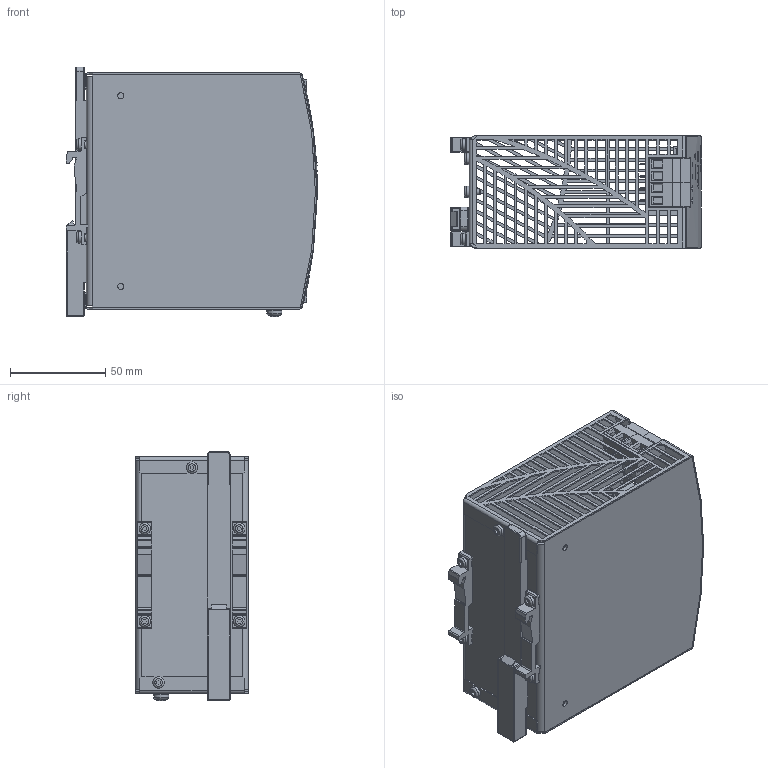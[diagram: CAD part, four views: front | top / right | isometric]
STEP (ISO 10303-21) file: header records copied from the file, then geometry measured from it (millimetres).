
FILE_DESCRIPTION(/* description */ (''),/* implementation_level */ '2;1');
FILE_NAME(/* name */ 'L:\MKT-GER\Neue Webdokumente\Daten von KO\Internet\PIC480.481D (AN-434.05)\md3_pic480_481d.stp',/* time_stamp */ '2019-05-21T10:41:49+02:00',/* author */ ('rahns'),/* organization */ (''),/* preprocessor_version */ 'ST-DEVELOPER v17',/* originating_system */ 'Autodesk Inventor 2018',/* authorisation */ '');
FILE_SCHEMA (('AUTOMOTIVE_DESIGN { 1 0 10303 214 3 1 1 }'));
Products named in the file (14): 434.05; HOUSING BODY 434.00; MKT_SLIDER; MKT_T HOLDER1; MKT_SCREW 3x6; HOUSING COVER 434.00; FRONTFOIL 434.05; MKT_LP2BK-D2; MKT_LP3BK-D2; MKT_LED GN; MKT_SCREW 4x8; MKT_WASHER 4; MKT_POTI; MKT_LP2SW-R6
Assembly tree (20 placements, depth 2):
  434.05
    HOUSING BODY 434.00
    MKT_SLIDER
    MKT_SCREW 3x6  x6
    MKT_T HOLDER1  x2
    HOUSING COVER 434.00
    FRONTFOIL 434.05
    MKT_LP2BK-D2  x2
    MKT_LP3BK-D2
    MKT_LED GN
    MKT_SCREW 4x8
    MKT_WASHER 4
    MKT_POTI
    MKT_LP2SW-R6
Bounding box: 131.65 x 59 x 130.77 mm (x, y, z)
Volume: 89853 mm3; surface area: 131007.3 mm2
Topology: 20 solids, 20 shells, 1660 faces, 4506 edges, 2990 vertices
Faces by surface type: plane 1139, cylinder 287, bspline 187, cone 22, torus 16, sphere 9
Full cylindrical faces by diameter (mm): 0.05 x4, 0.3 x4, 0.5 x3, 2.45 x2, 2.7 x1, 3 x6, 3.1 x4, 3.2 x3, 3.621 x1, 3.8 x1, 4 x2, 4.6 x1, 5 x1, 5.15 x7, 5.9 x1, 6 x6
Entity records: 54417 total; most frequent: CARTESIAN_POINT 17450, ORIENTED_EDGE 7850, DIRECTION 6768, EDGE_CURVE 3925, LINE 2770, VECTOR 2770, VERTEX_POINT 2602, AXIS2_PLACEMENT_3D 1999
